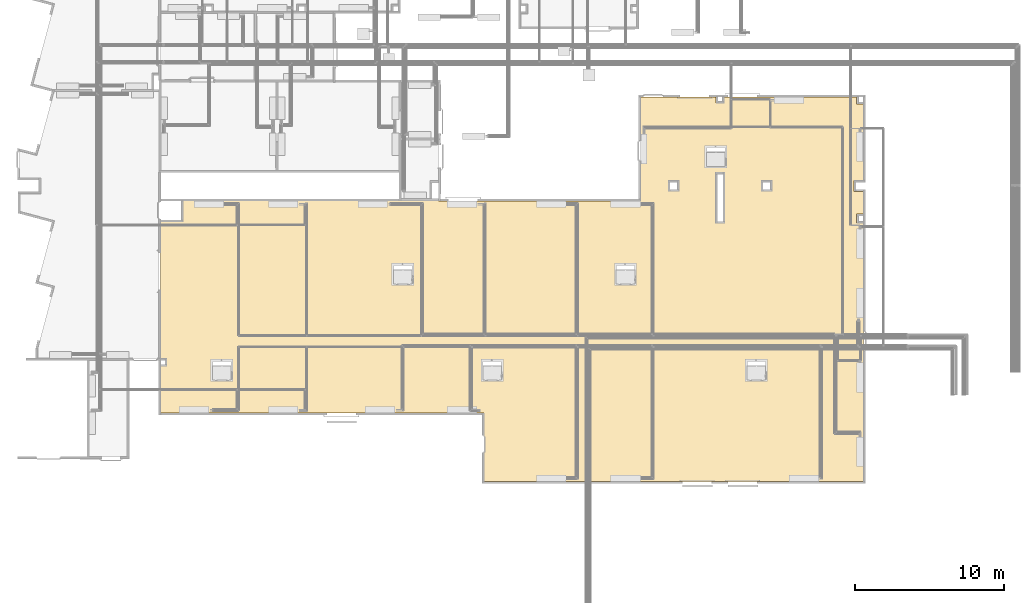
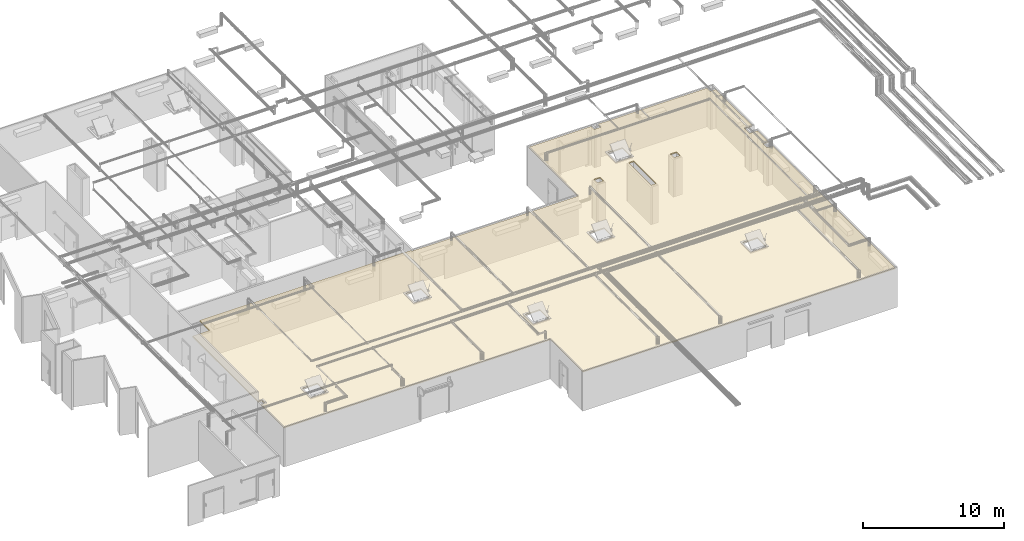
# One storey, part 46 of 652: 1 covering.
"""IFC2X3 building model written with IfcOpenShell, lengths in millimetres."""

from ifc_helpers import new_model, entity, si_unit, converted_unit, direction, frame, origin, place, context, subcontext, project, spatial, polyline, outline, extrude, material, layer, layer_set, layer_usage, type_object, element, save


model = new_model("IFC2X3")

# Units and contexts
model_context = context("Model", 3, precision=0.01, world=frame((0.0, 0.0, 308426.39999999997)), true_north=direction((6.123233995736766e-17, 1.0)))
plan_context = context("Plan", 3, precision=0.01, world=frame((0.0, 0.0, 308426.39999999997)), true_north=direction((6.123233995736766e-17, 1.0)))
body_context = subcontext(model_context, "Body", "Model", "MODEL_VIEW")
ifc_project = project(units=[si_unit("LENGTHUNIT", "METRE", prefix="MILLI"), si_unit("AREAUNIT", "SQUARE_METRE"), si_unit("VOLUMEUNIT", "CUBIC_METRE"), converted_unit("PLANEANGLEUNIT", "DEGREE", entity("IfcPlaneAngleMeasure", 0.017453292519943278), si_unit("PLANEANGLEUNIT", "RADIAN"), dimensions=[0, 0, 0, 0, 0, 0, 0])], contexts=[model_context, plan_context])

# Site, building, storey
site_placement = place(None, origin())
site = spatial("IfcSite", under=ifc_project, at=site_placement, Name="Default", CompositionType="ELEMENT")
building_placement = place(site_placement, origin())
building = spatial("IfcBuilding", under=site, at=building_placement, CompositionType="ELEMENT")
storey_placement = place(building_placement, frame((0.0, 0.0, 1730.6999999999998)))
storey = spatial("IfcBuildingStorey", under=building, at=storey_placement, Name="EG_Produktion_FFB", CompositionType="ELEMENT", Elevation=1730.6999999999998)

# Covering
ifc_material = material(Name="GPG_Kühlraum")
ifc_layer_1 = layer(ifc_material, 8.0)
ifc_layer_2 = layer(ifc_material, 84.0)
ifc_layer_3 = layer(ifc_material, 8.0)
ifc_layer_set = layer_set([ifc_layer_1, ifc_layer_2, ifc_layer_3], Name="Deckensystem:Kühlraum 100")
ifc_layer_usage = layer_usage(ifc_layer_set, "AXIS3", "NEGATIVE", 100.0)
covering_type = type_object("IfcCoveringType", Name="Deckensystem:Kühlraum 100", PredefinedType="CEILING")
covering_placement = place(storey_placement, origin())
element("IfcCovering", 1, at=covering_placement, inside=storey, type_object=covering_type, material=ifc_layer_usage, Name="Deckensystem:Kühlraum 100", ObjectType="Deckensystem:Kühlraum 100", PredefinedType="CEILING", context=body_context, shape_type="SweptSolid", body=[
    extrude(outline(polyline([(-3487.6666666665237, 1953.3470928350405), (-3487.6666666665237, 8933.347092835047), (-8572.666666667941, 8933.347092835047), (-8572.666666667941, 8513.34709283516), (-9112.666666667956, 8513.34709283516), (-9112.666666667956, 8933.347092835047), (-18017.666666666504, 8933.347092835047), (-18017.666666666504, 8463.347092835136), (-18467.66666666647, 8463.347092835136), (-18467.66666666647, 3323.3470928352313), (-17847.66666666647, 3323.3470928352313), (-17847.66666666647, 2583.3470928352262), (-18467.66666666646, 2583.3470928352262), (-18467.66666666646, 1053.2438965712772), (-18017.666666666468, 1053.2438965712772), (-18017.666666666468, 453.2438965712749), (-18467.66666666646, 453.2438965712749), (-18467.66666666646, -16916.652907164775), (7012.333333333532, -16916.652907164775), (7012.333333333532, -12316.652907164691), (28762.333333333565, -12316.652907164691), (28762.33333333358, -9046.652907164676), (28462.333333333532, -9046.652907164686), (28462.33333333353, -8656.652907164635), (28762.333333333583, -8656.652907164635), (28762.333333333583, 653.3470928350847), (27362.33333333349, 653.3470928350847), (27362.33333333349, 2073.347092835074), (10097.333333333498, 2073.347092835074), (10097.333333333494, 1953.3470928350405), (-3487.6666666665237, 1953.3470928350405)]), holes=[polyline([(-9042.666666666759, 3753.347092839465), (-8642.666666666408, 3753.3470928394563), (-8642.666666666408, 553.3470928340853), (-9042.666666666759, 553.3470928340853), (-9042.666666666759, 3753.347092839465)]), polyline([(-12217.666666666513, 3203.347092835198), (-11717.666666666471, 3203.347092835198), (-11717.666666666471, 2703.3470928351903), (-12217.666666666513, 2703.3470928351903), (-12217.666666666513, 3203.347092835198)]), polyline([(-5967.666666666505, 3203.3470928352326), (-5467.666666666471, 3203.3470928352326), (-5467.666666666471, 2703.347092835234), (-5967.666666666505, 2703.347092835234), (-5967.666666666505, 3203.3470928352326)]), polyline([(5859.333333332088, -8813.652907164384), (7105.333333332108, -8813.652907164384), (7105.333333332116, -10059.652907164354), (5859.333333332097, -10059.652907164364), (5859.333333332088, -8813.652907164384)]), polyline([(13105.333333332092, -3604.6529071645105), (11859.333333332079, -3604.652907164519), (11859.333333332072, -2358.6529071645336), (13105.333333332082, -2358.652907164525), (13105.333333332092, -3604.6529071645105)]), polyline([(-1854.6666666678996, -3604.652907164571), (-3100.666666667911, -3604.6529071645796), (-3100.666666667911, -2358.6529071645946), (-1854.6666666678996, -2358.6529071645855), (-1854.6666666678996, -3604.652907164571)]), polyline([(-7930.84071744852, 4295.347092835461), (-9176.840717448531, 4295.347092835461), (-9176.840717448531, 5541.347092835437), (-7930.84071744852, 5541.347092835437), (-7930.84071744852, 4295.347092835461)]), polyline([(-11895.666666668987, -8813.652907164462), (-10649.666666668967, -8813.652907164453), (-10649.666666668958, -10059.652907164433), (-11895.666666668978, -10059.652907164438), (-11895.666666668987, -8813.652907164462)]), polyline([(24019.33333333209, -8813.652907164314), (25265.333333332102, -8813.652907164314), (25265.333333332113, -10059.652907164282), (24019.3333333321, -10059.65290716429), (24019.33333333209, -8813.652907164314)])]), frame((48032.333333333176, 48646.65290716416, 3000.0), z_axis=(0.0, 0.0, -1.0), x_axis=(-1.0, 0.0, 0.0)), (0.0, 0.0, -1.0), 100.0),
])

save(model, "model.ifc")
